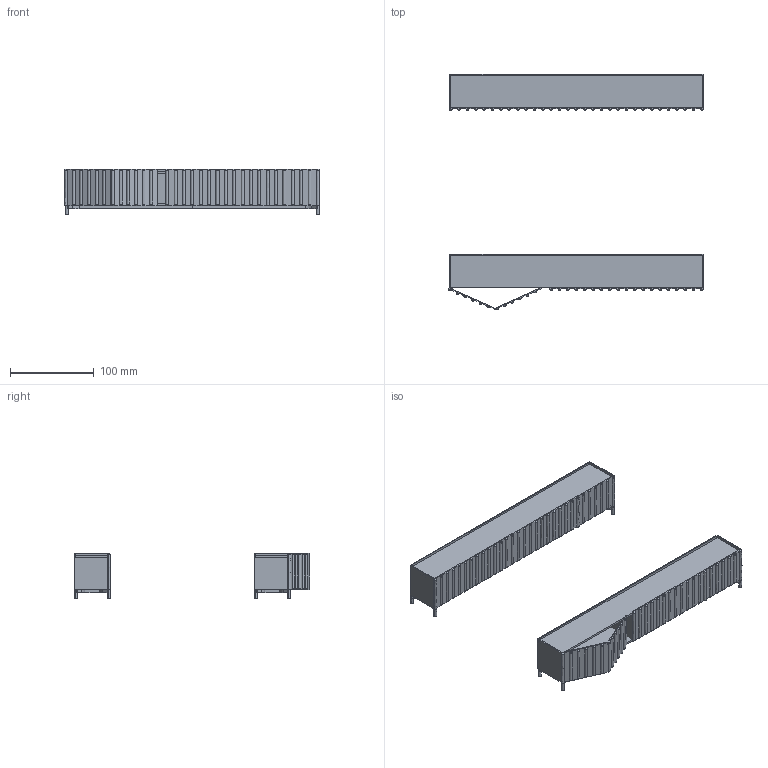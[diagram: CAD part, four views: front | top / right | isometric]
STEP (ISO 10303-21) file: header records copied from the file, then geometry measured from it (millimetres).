
FILE_DESCRIPTION(/* description */ (''),/* implementation_level */ '2;1');
FILE_NAME(/* name */ 'container303',/* time_stamp */ '2021-10-08T12:53:47+02:00',/* author */ (''),/* organization */ (''),/* preprocessor_version */ 'ST-DEVELOPER v15',/* originating_system */ '',/* authorisation */ '');
FILE_SCHEMA (('AUTOMOTIVE_DESIGN'));
Length unit declared in the file: millimetre
Products named in the file (1): Document
Bounding box: 304.21 x 281.45 x 54.5 mm (x, y, z)
Volume: 244580.4 mm3; surface area: 260127.5 mm2
Topology: 40 solids, 48 shells, 556 faces, 1150 edges, 682 vertices
Faces by surface type: plane 422, bspline 134
Entity records: 15631 total; most frequent: CARTESIAN_POINT 7684, ORIENTED_EDGE 2264, EDGE_CURVE 1148, B_SPLINE_CURVE_WITH_KNOTS 802, VERTEX_POINT 680, ADVANCED_FACE 556, FACE_OUTER_BOUND 556, EDGE_LOOP 556
